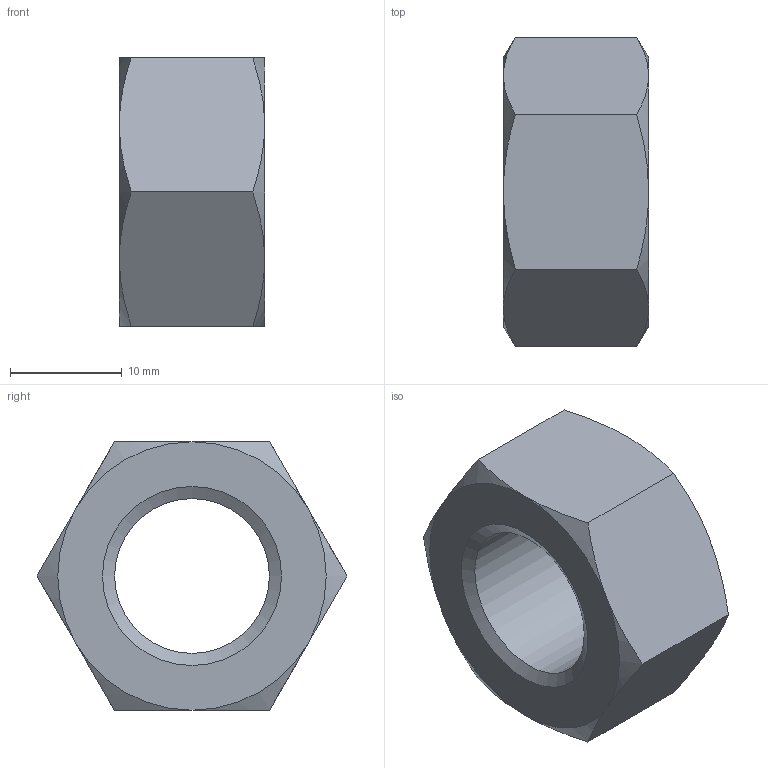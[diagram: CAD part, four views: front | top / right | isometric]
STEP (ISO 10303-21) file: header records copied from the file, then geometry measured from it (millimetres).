
FILE_DESCRIPTION(/* description */ ('6각 너트'),/* implementation_level */ '2;1');
FILE_NAME(/* name */ '',/* time_stamp */ '2025-01-09T17:58:44+09:00',/* author */ ('jhkim'),/* organization */ (''),/* preprocessor_version */ 'ST-DEVELOPER v20',/* originating_system */ 'Autodesk Inventor 2025',/* authorisation */ '');
FILE_SCHEMA (('AUTOMOTIVE_DESIGN { 1 0 10303 214 3 1 1 }'));
Length unit declared in the file: millimetre
Products named in the file (1): 육각 너트 M16
Bounding box: 13 x 27.71 x 24 mm (x, y, z)
Volume: 4469.5 mm3; surface area: 2257.4 mm2
Topology: 1 solids, 1 shells, 23 faces, 50 edges, 29 vertices
Faces by surface type: cone 14, plane 8, cylinder 1
Full cylindrical faces by diameter (mm): 13.835 x1
Entity records: 640 total; most frequent: CARTESIAN_POINT 151, ORIENTED_EDGE 100, DIRECTION 91, EDGE_CURVE 50, AXIS2_PLACEMENT_3D 41, VERTEX_POINT 29, EDGE_LOOP 25, FACE_OUTER_BOUND 23
